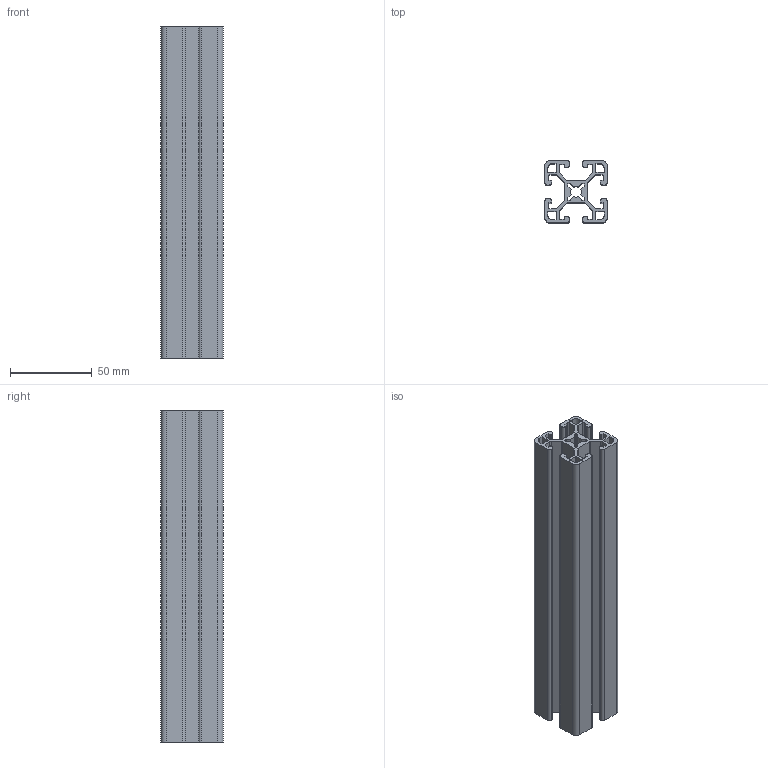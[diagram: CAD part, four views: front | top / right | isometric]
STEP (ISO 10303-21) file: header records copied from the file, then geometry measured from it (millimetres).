
FILE_DESCRIPTION(/* description */ ('STEP AP214'),/* implementation_level */ '2;1');
FILE_NAME(/* name */ '1515-ULS-8-CL',/* time_stamp */ '2023-08-13T18:32:10+02:00',/* author */ ('License CC BY-ND 4.0'),/* organization */ ('CADENAS'),/* preprocessor_version */ 'ST-DEVELOPER v19.3',/* originating_system */ 'PARTsolutions',/* authorisation */ ' ');
FILE_SCHEMA (('AUTOMOTIVE_DESIGN {1 0 10303 214 3 1 1}'));
Length unit declared in the file: inch
Products named in the file (1): 1515-ULS-8-CL
Bounding box: 38.1 x 38.1 x 203.2 mm (x, y, z)
Volume: 102307.1 mm3; surface area: 94992.5 mm2
Topology: 1 solids, 1 shells, 186 faces, 552 edges, 368 vertices
Faces by surface type: plane 94, cylinder 92
Entity records: 6332 total; most frequent: DIRECTION 1110, CARTESIAN_POINT 1107, ORIENTED_EDGE 1104, EDGE_CURVE 552, AXIS2_PLACEMENT_3D 371, LINE 368, VECTOR 368, VERTEX_POINT 368
